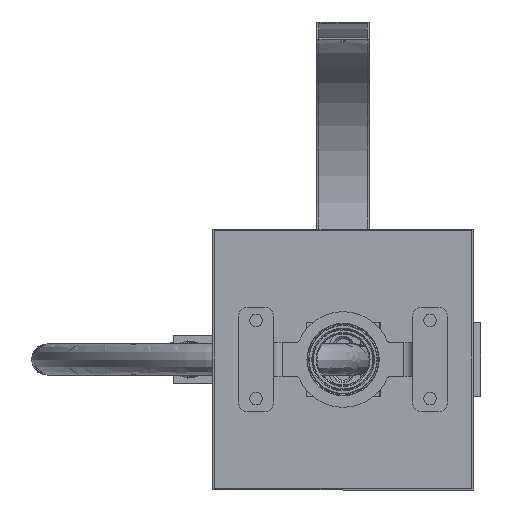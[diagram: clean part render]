
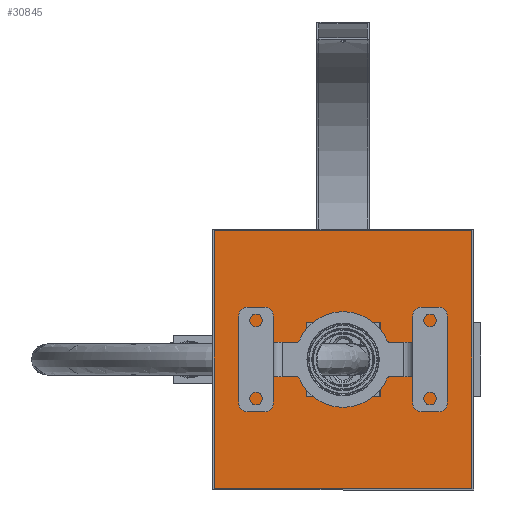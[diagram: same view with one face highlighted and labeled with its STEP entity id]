
A CAD part, front view. The second image highlights one B-rep face of the part: STEP entity #30845.
In plain terms, the highlighted planar face has unit normal (0, -1, 0).
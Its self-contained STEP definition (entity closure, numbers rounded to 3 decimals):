
#5 = LINE ( 'NONE', #8824, #24235 ) ;
#455 = CARTESIAN_POINT ( 'NONE',  ( 0., 49., 0. ) ) ;
#1101 = ORIENTED_EDGE ( 'NONE', *, *, #31158, .T. ) ;
#1509 = EDGE_LOOP ( 'NONE', ( #16665, #17702, #10390, #36187 ) ) ;
#1677 = EDGE_CURVE ( 'NONE', #41683, #36139, #42633, .T. ) ;
#1753 = CARTESIAN_POINT ( 'NONE',  ( -21.25, 49., 21.25 ) ) ;
#3025 = LINE ( 'NONE', #30843, #20509 ) ;
#3825 = FACE_BOUND ( 'NONE', #20875, .T. ) ;
#3946 = ORIENTED_EDGE ( 'NONE', *, *, #1677, .T. ) ;
#5096 = EDGE_CURVE ( 'NONE', #34759, #21735, #5, .T. ) ;
#5804 = VECTOR ( 'NONE', #10398, 1000. ) ;
#6896 = LINE ( 'NONE', #42102, #23385 ) ;
#7744 = DIRECTION ( 'NONE',  ( 0., 0., 1. ) ) ;
#8824 = CARTESIAN_POINT ( 'NONE',  ( -75., 49., 74. ) ) ;
#8988 = VECTOR ( 'NONE', #9620, 1000. ) ;
#9015 = DIRECTION ( 'NONE',  ( 1., 0., 0. ) ) ;
#9620 = DIRECTION ( 'NONE',  ( 0., 0., -1. ) ) ;
#10208 = CARTESIAN_POINT ( 'NONE',  ( 74., 49., 74. ) ) ;
#10390 = ORIENTED_EDGE ( 'NONE', *, *, #22455, .F. ) ;
#10398 = DIRECTION ( 'NONE',  ( 0., 0., 1. ) ) ;
#11616 = VERTEX_POINT ( 'NONE', #1753 ) ;
#11881 = CARTESIAN_POINT ( 'NONE',  ( -74., 49., 74. ) ) ;
#12323 = CARTESIAN_POINT ( 'NONE',  ( 21.25, 49., 21.25 ) ) ;
#14445 = CARTESIAN_POINT ( 'NONE',  ( 21.25, 49., -21.25 ) ) ;
#14506 = LINE ( 'NONE', #36722, #5804 ) ;
#16665 = ORIENTED_EDGE ( 'NONE', *, *, #23559, .F. ) ;
#16935 = DIRECTION ( 'NONE',  ( 0., 1., 0. ) ) ;
#17702 = ORIENTED_EDGE ( 'NONE', *, *, #25979, .F. ) ;
#19741 = LINE ( 'NONE', #35073, #27554 ) ;
#20509 = VECTOR ( 'NONE', #7744, 1000. ) ;
#20770 = DIRECTION ( 'NONE',  ( 0., 0., -1. ) ) ;
#20875 = EDGE_LOOP ( 'NONE', ( #1101, #34272, #32161, #3946 ) ) ;
#21735 = VERTEX_POINT ( 'NONE', #10208 ) ;
#22455 = EDGE_CURVE ( 'NONE', #21735, #25792, #29687, .T. ) ;
#22885 = CARTESIAN_POINT ( 'NONE',  ( -75., 49., -74. ) ) ;
#23014 = VERTEX_POINT ( 'NONE', #32269 ) ;
#23346 = CARTESIAN_POINT ( 'NONE',  ( -74., 49., -74. ) ) ;
#23385 = VECTOR ( 'NONE', #9015, 1000. ) ;
#23559 = EDGE_CURVE ( 'NONE', #38420, #34759, #14506, .T. ) ;
#24124 = CARTESIAN_POINT ( 'NONE',  ( 21.25, 49., 0. ) ) ;
#24235 = VECTOR ( 'NONE', #38594, 1000. ) ;
#25038 = VECTOR ( 'NONE', #20770, 1000. ) ;
#25792 = VERTEX_POINT ( 'NONE', #35116 ) ;
#25979 = EDGE_CURVE ( 'NONE', #25792, #38420, #36191, .T. ) ;
#26075 = CARTESIAN_POINT ( 'NONE',  ( 74., 49., -75. ) ) ;
#27380 = VECTOR ( 'NONE', #32938, 1000. ) ;
#27554 = VECTOR ( 'NONE', #31737, 1000. ) ;
#29687 = LINE ( 'NONE', #26075, #8988 ) ;
#30177 = FACE_OUTER_BOUND ( 'NONE', #1509, .T. ) ;
#30843 = CARTESIAN_POINT ( 'NONE',  ( -21.25, 49., 0. ) ) ;
#30845 = ADVANCED_FACE ( 'NONE', ( #3825, #30177 ), #36838, .F. ) ;
#31158 = EDGE_CURVE ( 'NONE', #36139, #23014, #19741, .T. ) ;
#31737 = DIRECTION ( 'NONE',  ( -1., 0., 0. ) ) ;
#32161 = ORIENTED_EDGE ( 'NONE', *, *, #37701, .T. ) ;
#32269 = CARTESIAN_POINT ( 'NONE',  ( -21.25, 49., -21.25 ) ) ;
#32938 = DIRECTION ( 'NONE',  ( -1., 0., 0. ) ) ;
#34272 = ORIENTED_EDGE ( 'NONE', *, *, #34608, .T. ) ;
#34608 = EDGE_CURVE ( 'NONE', #23014, #11616, #3025, .T. ) ;
#34759 = VERTEX_POINT ( 'NONE', #11881 ) ;
#35073 = CARTESIAN_POINT ( 'NONE',  ( 0., 49., -21.25 ) ) ;
#35116 = CARTESIAN_POINT ( 'NONE',  ( 74., 49., -74. ) ) ;
#36139 = VERTEX_POINT ( 'NONE', #14445 ) ;
#36187 = ORIENTED_EDGE ( 'NONE', *, *, #5096, .F. ) ;
#36191 = LINE ( 'NONE', #22885, #27380 ) ;
#36293 = AXIS2_PLACEMENT_3D ( 'NONE', #455, #16935, #40136 ) ;
#36722 = CARTESIAN_POINT ( 'NONE',  ( -74., 49., -75. ) ) ;
#36838 = PLANE ( 'NONE',  #36293 ) ;
#37701 = EDGE_CURVE ( 'NONE', #11616, #41683, #6896, .T. ) ;
#38420 = VERTEX_POINT ( 'NONE', #23346 ) ;
#38594 = DIRECTION ( 'NONE',  ( 1., 0., 0. ) ) ;
#40136 = DIRECTION ( 'NONE',  ( 0., 0., 1. ) ) ;
#41683 = VERTEX_POINT ( 'NONE', #12323 ) ;
#42102 = CARTESIAN_POINT ( 'NONE',  ( 0., 49., 21.25 ) ) ;
#42633 = LINE ( 'NONE', #24124, #25038 ) ;
